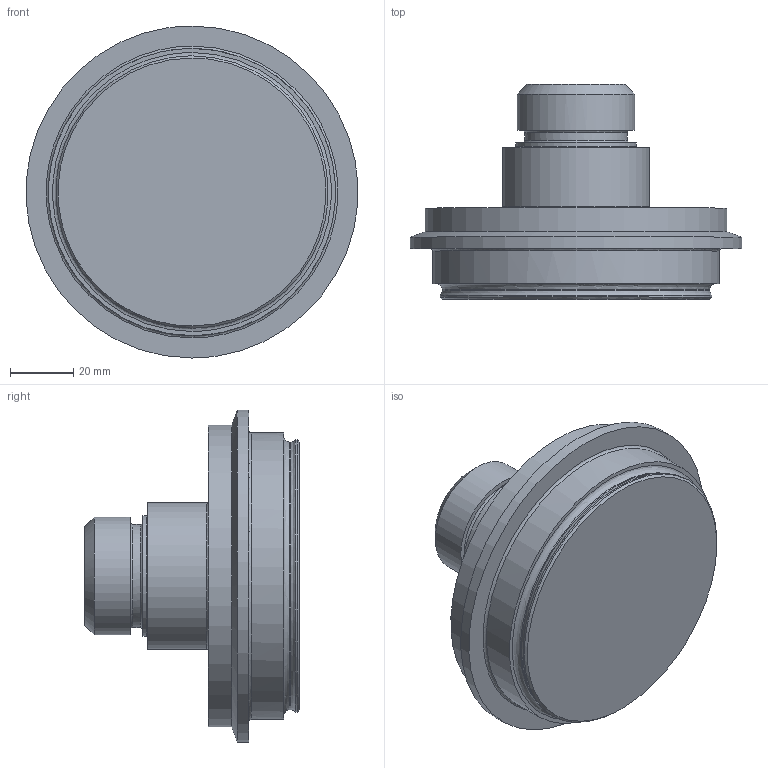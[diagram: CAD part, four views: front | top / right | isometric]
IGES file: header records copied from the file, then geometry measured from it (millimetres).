
Global section: file name: 122307 3; native system: Autodesk Inventor 2020; preprocessor: unknown; author: H7M44K; date: 20210423.112116; units: inch
Bounding box: 104.64 x 67.82 x 104.78 mm (x, y, z)
Volume: 249717.7 mm3; surface area: 30313.5 mm2
Topology: 1 solids, 1 shells, 27 faces, 71 edges, 52 vertices
Faces by surface type: bspline 27
